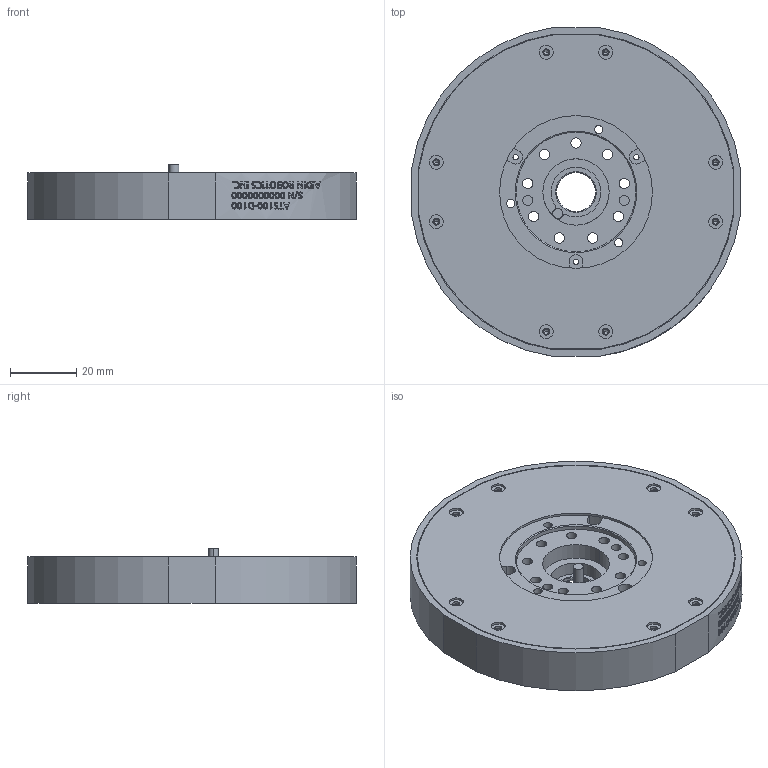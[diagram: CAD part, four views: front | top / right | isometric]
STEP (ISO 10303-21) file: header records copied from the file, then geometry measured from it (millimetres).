
FILE_DESCRIPTION (( 'STEP AP214' ), '1' );
FILE_NAME ('ATS100-D100-3D_M4.STEP', '2021-08-11T06:42:21', ( '' ), ( '' ), 'SwSTEP 2.0', 'SolidWorks 2018', '' );
FILE_SCHEMA (( 'AUTOMOTIVE_DESIGN' ));
Length unit declared in the file: millimetre
Products named in the file (2): ATS100-D100-3D_M4; 颇飘17^ATS100-D100-3D
Assembly tree (1 placements, depth 2):
  ATS100-D100-3D_M4
    颇飘17^ATS100-D100-3D
Bounding box: 99 x 99 x 16.5 mm (x, y, z)
Volume: 97224.1 mm3; surface area: 31539.3 mm2
Topology: 2 solids, 2 shells, 921 faces, 2361 edges, 1538 vertices
Faces by surface type: bspline 332, cylinder 300, plane 241, cone 46, torus 2
Entity records: 46706 total; most frequent: CARTESIAN_POINT 25880, ORIENTED_EDGE 4642, DIRECTION 3389, EDGE_CURVE 2321, VERTEX_POINT 1538, AXIS2_PLACEMENT_3D 1215, EDGE_LOOP 1095, LINE 959
